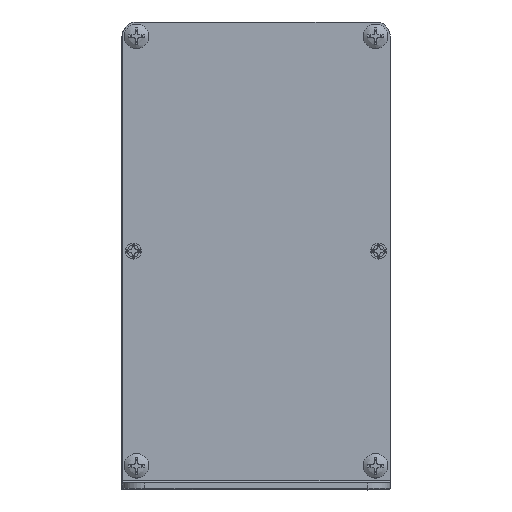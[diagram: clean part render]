
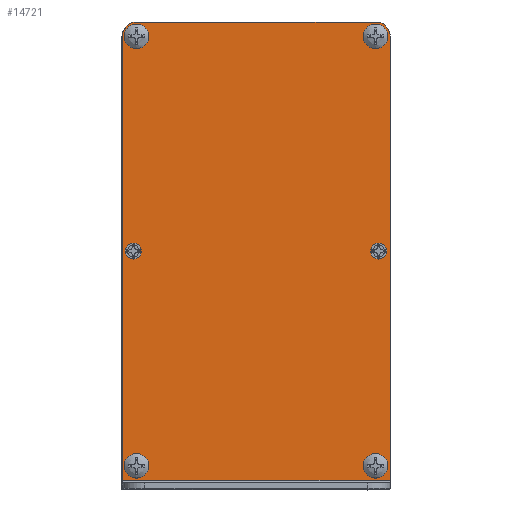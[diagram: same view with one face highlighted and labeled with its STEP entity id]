
A CAD part, top view. The second image highlights one B-rep face of the part: STEP entity #14721.
In plain terms, the highlighted planar face has unit normal (0, 0, 1).
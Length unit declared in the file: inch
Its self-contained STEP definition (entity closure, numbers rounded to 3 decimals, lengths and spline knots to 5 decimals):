
#163=FACE_BOUND('',#1896,.T.);
#164=FACE_BOUND('',#1897,.T.);
#165=FACE_BOUND('',#1898,.T.);
#166=FACE_BOUND('',#1899,.T.);
#167=FACE_BOUND('',#1900,.T.);
#168=FACE_BOUND('',#1901,.T.);
#1095=FACE_OUTER_BOUND('',#1895,.T.);
#1895=EDGE_LOOP('',(#12144,#12145,#12146,#12147,#12148,#12149));
#1896=EDGE_LOOP('',(#12150));
#1897=EDGE_LOOP('',(#12151));
#1898=EDGE_LOOP('',(#12152,#12153));
#1899=EDGE_LOOP('',(#12154,#12155));
#1900=EDGE_LOOP('',(#12156,#12157));
#1901=EDGE_LOOP('',(#12158,#12159));
#2611=CIRCLE('',#15633,0.08268);
#2647=CIRCLE('',#15694,0.08268);
#2752=CIRCLE('',#15930,0.17323);
#2753=CIRCLE('',#15931,0.17323);
#2772=CIRCLE('',#15972,0.17323);
#2773=CIRCLE('',#15973,0.17323);
#2789=CIRCLE('',#16011,0.17323);
#2790=CIRCLE('',#16012,0.17323);
#2806=CIRCLE('',#16050,0.17323);
#2807=CIRCLE('',#16051,0.17323);
#2929=CIRCLE('',#16200,0.19685);
#2931=CIRCLE('',#16204,0.19685);
#3881=LINE('',#26574,#5101);
#3888=LINE('',#26583,#5108);
#3889=LINE('',#26585,#5109);
#3890=LINE('',#26587,#5110);
#5101=VECTOR('',#19800,0.3937);
#5108=VECTOR('',#19809,0.3937);
#5109=VECTOR('',#19810,0.3937);
#5110=VECTOR('',#19811,0.3937);
#6059=VERTEX_POINT('',#23086);
#6115=VERTEX_POINT('',#23273);
#6391=VERTEX_POINT('',#25011);
#6392=VERTEX_POINT('',#25012);
#6438=VERTEX_POINT('',#25330);
#6439=VERTEX_POINT('',#25331);
#6483=VERTEX_POINT('',#25645);
#6484=VERTEX_POINT('',#25646);
#6528=VERTEX_POINT('',#25960);
#6529=VERTEX_POINT('',#25961);
#6805=VERTEX_POINT('',#26564);
#6806=VERTEX_POINT('',#26565);
#6809=VERTEX_POINT('',#26573);
#6810=VERTEX_POINT('',#26582);
#6811=VERTEX_POINT('',#26584);
#6812=VERTEX_POINT('',#26586);
#7709=EDGE_CURVE('',#6059,#6059,#2611,.T.);
#7794=EDGE_CURVE('',#6115,#6115,#2647,.T.);
#8204=EDGE_CURVE('',#6391,#6392,#2752,.T.);
#8205=EDGE_CURVE('',#6392,#6391,#2753,.T.);
#8273=EDGE_CURVE('',#6438,#6439,#2772,.T.);
#8274=EDGE_CURVE('',#6439,#6438,#2773,.T.);
#8340=EDGE_CURVE('',#6483,#6484,#2789,.T.);
#8341=EDGE_CURVE('',#6484,#6483,#2790,.T.);
#8407=EDGE_CURVE('',#6528,#6529,#2806,.T.);
#8408=EDGE_CURVE('',#6529,#6528,#2807,.T.);
#8707=EDGE_CURVE('',#6805,#6806,#2929,.T.);
#8711=EDGE_CURVE('',#6806,#6809,#3881,.T.);
#8718=EDGE_CURVE('',#6805,#6810,#3888,.T.);
#8719=EDGE_CURVE('',#6810,#6811,#3889,.T.);
#8720=EDGE_CURVE('',#6812,#6811,#3890,.T.);
#8721=EDGE_CURVE('',#6809,#6812,#2931,.T.);
#12144=ORIENTED_EDGE('',*,*,#8707,.F.);
#12145=ORIENTED_EDGE('',*,*,#8718,.T.);
#12146=ORIENTED_EDGE('',*,*,#8719,.T.);
#12147=ORIENTED_EDGE('',*,*,#8720,.F.);
#12148=ORIENTED_EDGE('',*,*,#8721,.F.);
#12149=ORIENTED_EDGE('',*,*,#8711,.F.);
#12150=ORIENTED_EDGE('',*,*,#7709,.T.);
#12151=ORIENTED_EDGE('',*,*,#7794,.T.);
#12152=ORIENTED_EDGE('',*,*,#8204,.T.);
#12153=ORIENTED_EDGE('',*,*,#8205,.T.);
#12154=ORIENTED_EDGE('',*,*,#8273,.T.);
#12155=ORIENTED_EDGE('',*,*,#8274,.T.);
#12156=ORIENTED_EDGE('',*,*,#8340,.T.);
#12157=ORIENTED_EDGE('',*,*,#8341,.T.);
#12158=ORIENTED_EDGE('',*,*,#8407,.T.);
#12159=ORIENTED_EDGE('',*,*,#8408,.T.);
#13721=PLANE('',#16203);
#14721=ADVANCED_FACE('',(#1095,#163,#164,#165,#166,#167,#168),#13721,.T.);
#15633=AXIS2_PLACEMENT_3D('',#23087,#18139,#18140);
#15694=AXIS2_PLACEMENT_3D('',#23274,#18301,#18302);
#15930=AXIS2_PLACEMENT_3D('',#25013,#18980,#18981);
#15931=AXIS2_PLACEMENT_3D('',#25014,#18982,#18983);
#15972=AXIS2_PLACEMENT_3D('',#25332,#19095,#19096);
#15973=AXIS2_PLACEMENT_3D('',#25333,#19097,#19098);
#16011=AXIS2_PLACEMENT_3D('',#25647,#19205,#19206);
#16012=AXIS2_PLACEMENT_3D('',#25648,#19207,#19208);
#16050=AXIS2_PLACEMENT_3D('',#25962,#19315,#19316);
#16051=AXIS2_PLACEMENT_3D('',#25963,#19317,#19318);
#16200=AXIS2_PLACEMENT_3D('',#26566,#19792,#19793);
#16203=AXIS2_PLACEMENT_3D('',#26581,#19807,#19808);
#16204=AXIS2_PLACEMENT_3D('',#26588,#19812,#19813);
#18139=DIRECTION('center_axis',(0.,0.,-1.));
#18140=DIRECTION('ref_axis',(1.,0.,0.));
#18301=DIRECTION('center_axis',(0.,0.,-1.));
#18302=DIRECTION('ref_axis',(1.,0.,0.));
#18980=DIRECTION('center_axis',(0.,0.,-1.));
#18981=DIRECTION('ref_axis',(1.,0.,0.));
#18982=DIRECTION('center_axis',(0.,0.,-1.));
#18983=DIRECTION('ref_axis',(1.,0.,0.));
#19095=DIRECTION('center_axis',(0.,0.,-1.));
#19096=DIRECTION('ref_axis',(1.,0.,0.));
#19097=DIRECTION('center_axis',(0.,0.,-1.));
#19098=DIRECTION('ref_axis',(1.,0.,0.));
#19205=DIRECTION('center_axis',(0.,0.,-1.));
#19206=DIRECTION('ref_axis',(1.,0.,0.));
#19207=DIRECTION('center_axis',(0.,0.,-1.));
#19208=DIRECTION('ref_axis',(1.,0.,0.));
#19315=DIRECTION('center_axis',(0.,0.,-1.));
#19316=DIRECTION('ref_axis',(1.,0.,0.));
#19317=DIRECTION('center_axis',(0.,0.,-1.));
#19318=DIRECTION('ref_axis',(1.,0.,0.));
#19792=DIRECTION('center_axis',(0.,0.,-1.));
#19793=DIRECTION('ref_axis',(-0.707,0.707,0.));
#19800=DIRECTION('',(1.,0.,0.));
#19807=DIRECTION('center_axis',(0.,0.,1.));
#19808=DIRECTION('ref_axis',(0.,-1.,0.));
#19809=DIRECTION('',(0.,-1.,0.));
#19810=DIRECTION('',(1.,0.,0.));
#19811=DIRECTION('',(0.,-1.,0.));
#19812=DIRECTION('center_axis',(0.,0.,-1.));
#19813=DIRECTION('ref_axis',(0.707,0.707,0.));
#23086=CARTESIAN_POINT('',(1.14461,3.30272,11.10236));
#23087=CARTESIAN_POINT('Origin',(1.22729,3.30272,11.10236));
#23273=CARTESIAN_POINT('',(4.58947,3.30272,11.10236));
#23274=CARTESIAN_POINT('Origin',(4.67214,3.30272,11.10236));
#25011=CARTESIAN_POINT('',(1.44444,0.28761,11.10236));
#25012=CARTESIAN_POINT('',(1.09799,0.28761,11.10236));
#25013=CARTESIAN_POINT('Origin',(1.27122,0.28761,11.10236));
#25014=CARTESIAN_POINT('Origin',(1.27122,0.28761,11.10236));
#25330=CARTESIAN_POINT('',(4.80144,0.28761,11.10236));
#25331=CARTESIAN_POINT('',(4.45499,0.28761,11.10236));
#25332=CARTESIAN_POINT('Origin',(4.62821,0.28761,11.10236));
#25333=CARTESIAN_POINT('Origin',(4.62821,0.28761,11.10236));
#25645=CARTESIAN_POINT('',(4.80144,6.31783,11.10236));
#25646=CARTESIAN_POINT('',(4.45499,6.31783,11.10236));
#25647=CARTESIAN_POINT('Origin',(4.62821,6.31783,11.10236));
#25648=CARTESIAN_POINT('Origin',(4.62821,6.31783,11.10236));
#25960=CARTESIAN_POINT('',(1.44444,6.31783,11.10236));
#25961=CARTESIAN_POINT('',(1.09799,6.31783,11.10236));
#25962=CARTESIAN_POINT('Origin',(1.27122,6.31783,11.10236));
#25963=CARTESIAN_POINT('Origin',(1.27122,6.31783,11.10236));
#26564=CARTESIAN_POINT('',(1.07436,6.3224,11.10236));
#26565=CARTESIAN_POINT('',(1.27122,6.51925,11.10236));
#26566=CARTESIAN_POINT('Origin',(1.27122,6.3224,11.10236));
#26573=CARTESIAN_POINT('',(4.63736,6.51925,11.10236));
#26574=CARTESIAN_POINT('',(1.07436,6.51925,11.10236));
#26581=CARTESIAN_POINT('Origin',(1.07436,6.51925,11.10236));
#26582=CARTESIAN_POINT('',(1.07436,0.08618,11.10236));
#26583=CARTESIAN_POINT('',(1.07436,6.51925,11.10236));
#26584=CARTESIAN_POINT('',(4.83421,0.08618,11.10236));
#26585=CARTESIAN_POINT('',(1.07436,0.08618,11.10236));
#26586=CARTESIAN_POINT('',(4.83421,6.3224,11.10236));
#26587=CARTESIAN_POINT('',(4.83421,6.51925,11.10236));
#26588=CARTESIAN_POINT('Origin',(4.63736,6.3224,11.10236));
